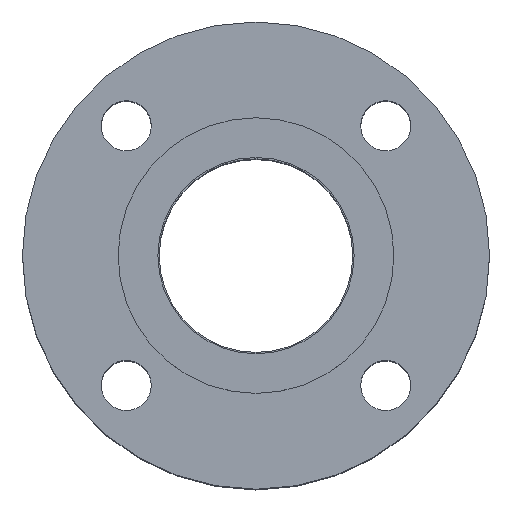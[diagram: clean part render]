
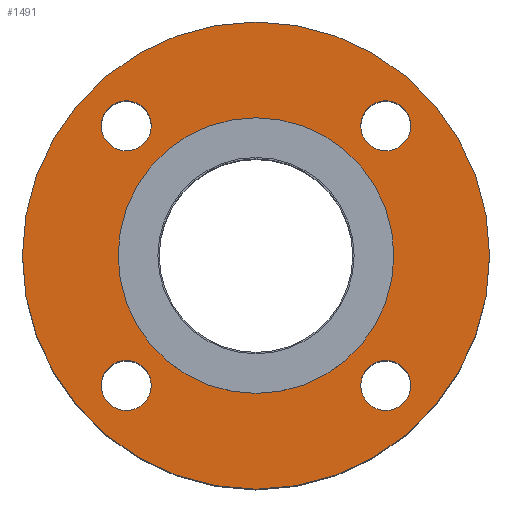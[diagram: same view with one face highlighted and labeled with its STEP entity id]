
A CAD part, top view. The second image highlights one B-rep face of the part: STEP entity #1491.
In plain terms, the highlighted planar face has unit normal (0, 0, 1).
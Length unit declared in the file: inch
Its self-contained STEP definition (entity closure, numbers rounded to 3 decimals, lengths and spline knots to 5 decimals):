
#80=FACE_BOUND('',#391,.T.);
#81=FACE_BOUND('',#392,.T.);
#82=FACE_BOUND('',#393,.T.);
#83=FACE_BOUND('',#394,.T.);
#84=FACE_BOUND('',#395,.T.);
#142=PLANE('',#1684);
#261=FACE_OUTER_BOUND('',#390,.T.);
#390=EDGE_LOOP('',(#1133));
#391=EDGE_LOOP('',(#1134));
#392=EDGE_LOOP('',(#1135));
#393=EDGE_LOOP('',(#1136));
#394=EDGE_LOOP('',(#1137));
#395=EDGE_LOOP('',(#1138));
#583=CIRCLE('',#1651,0.375);
#585=CIRCLE('',#1654,0.375);
#587=CIRCLE('',#1657,0.375);
#589=CIRCLE('',#1660,0.375);
#602=CIRCLE('',#1679,2.065);
#604=CIRCLE('',#1683,3.5);
#763=VERTEX_POINT('',#2626);
#765=VERTEX_POINT('',#2632);
#767=VERTEX_POINT('',#2638);
#769=VERTEX_POINT('',#2644);
#780=VERTEX_POINT('',#2676);
#782=VERTEX_POINT('',#2683);
#891=EDGE_CURVE('',#763,#763,#583,.T.);
#894=EDGE_CURVE('',#765,#765,#585,.T.);
#897=EDGE_CURVE('',#767,#767,#587,.T.);
#900=EDGE_CURVE('',#769,#769,#589,.T.);
#916=EDGE_CURVE('',#780,#780,#602,.T.);
#918=EDGE_CURVE('',#782,#782,#604,.T.);
#1133=ORIENTED_EDGE('',*,*,#918,.T.);
#1134=ORIENTED_EDGE('',*,*,#891,.T.);
#1135=ORIENTED_EDGE('',*,*,#894,.T.);
#1136=ORIENTED_EDGE('',*,*,#897,.T.);
#1137=ORIENTED_EDGE('',*,*,#900,.T.);
#1138=ORIENTED_EDGE('',*,*,#916,.T.);
#1491=ADVANCED_FACE('',(#261,#80,#81,#82,#83,#84),#142,.T.);
#1651=AXIS2_PLACEMENT_3D('',#2627,#1975,#1976);
#1654=AXIS2_PLACEMENT_3D('',#2633,#1982,#1983);
#1657=AXIS2_PLACEMENT_3D('',#2639,#1989,#1990);
#1660=AXIS2_PLACEMENT_3D('',#2645,#1996,#1997);
#1679=AXIS2_PLACEMENT_3D('',#2678,#2037,#2038);
#1683=AXIS2_PLACEMENT_3D('',#2684,#2045,#2046);
#1684=AXIS2_PLACEMENT_3D('',#2686,#2048,#2049);
#1975=DIRECTION('center_axis',(0.,0.,-1.));
#1976=DIRECTION('ref_axis',(0.,-1.,0.));
#1982=DIRECTION('center_axis',(0.,0.,-1.));
#1983=DIRECTION('ref_axis',(-1.,0.,0.));
#1989=DIRECTION('center_axis',(0.,0.,-1.));
#1990=DIRECTION('ref_axis',(0.,1.,0.));
#1996=DIRECTION('center_axis',(0.,0.,-1.));
#1997=DIRECTION('ref_axis',(1.,0.,0.));
#2037=DIRECTION('center_axis',(0.,0.,-1.));
#2038=DIRECTION('ref_axis',(0.,1.,0.));
#2045=DIRECTION('center_axis',(0.,0.,1.));
#2046=DIRECTION('ref_axis',(1.,0.,0.));
#2048=DIRECTION('center_axis',(0.,0.,1.));
#2049=DIRECTION('ref_axis',(1.,0.,0.));
#2626=CARTESIAN_POINT('',(1.94454,2.31954,0.405));
#2627=CARTESIAN_POINT('Origin',(1.94454,1.94454,0.405));
#2632=CARTESIAN_POINT('',(2.31954,-1.94454,0.405));
#2633=CARTESIAN_POINT('Origin',(1.94454,-1.94454,0.405));
#2638=CARTESIAN_POINT('',(-1.94454,-2.31954,0.405));
#2639=CARTESIAN_POINT('Origin',(-1.94454,-1.94454,0.405));
#2644=CARTESIAN_POINT('',(-2.31954,1.94454,0.405));
#2645=CARTESIAN_POINT('Origin',(-1.94454,1.94454,0.405));
#2676=CARTESIAN_POINT('',(0.,-2.065,0.405));
#2678=CARTESIAN_POINT('Origin',(0.,0.,0.405));
#2683=CARTESIAN_POINT('',(0.,-3.5,0.405));
#2684=CARTESIAN_POINT('Origin',(0.,0.,0.405));
#2686=CARTESIAN_POINT('Origin',(0.,1.47,0.405));
